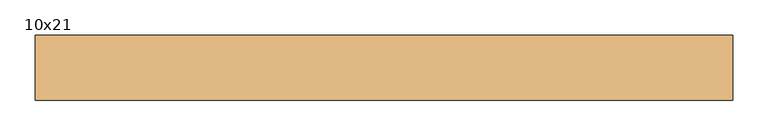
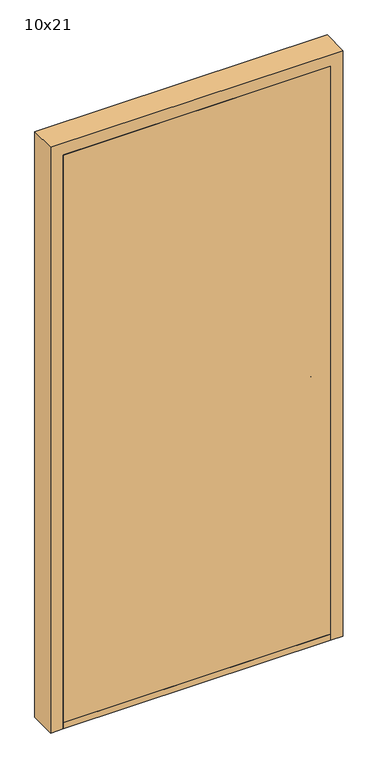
"""IFC4 building model written with IfcOpenShell, lengths in millimetres: door geometry, Innerdør Slett (Diplomat) : 10x21."""

from ifc_helpers import new_model, si_unit, point, frame, frame_2d, origin, origin_with_axes, place, context, project, spatial, polyline, circle_curve, trimmed, segment, composite_curve, outline, extrude, source, transform, mapped, element, save
from ifc_brep_helpers import plane_surface, cylinder_surface, revolved_surface, advanced_brep


def door_10x21_7303f475(model_context):
    return source(origin(), model_context, "Body", "SolidModel", [
        advanced_brep(
        [(393.9611305, -20.0, 949.1175955), (388.8520664, -20.0, 949.9496913), (326.0476109, -20.0, 943.6260011), (296.721536, -20.0, 938.7393398), (291.8691983, -20.0, 951.8913379), (295.505009, -20.0, 959.9624074), (300.3175669, -20.0, 964.8810513), (318.8963175, -20.0, 967.2639242), (363.6202158, -20.0, 964.1804415), (368.6891233, -20.0, 964.26032), (417.2687793, -20.0, 969.1517356), (446.379633, -20.0, 951.3474568), (408.3841161, -20.0, 942.6204086), (368.6891233, -27.1084716, 964.26032), (363.6202158, -27.1084716, 964.1804415), (318.8963175, -27.1084716, 967.2639242), (300.3175669, -27.1084716, 964.8810513), (295.505009, -27.1084716, 959.9624074), (291.8691983, -27.1084716, 951.8913379), (296.721536, -27.1084716, 938.7393398), (326.0476109, -27.1084716, 943.6260011), (388.8520664, -27.1084716, 949.9496913), (393.9611305, -27.1084716, 949.1175955), (408.3841161, -27.1084716, 942.6204086), (406.379633, -27.1084716, 951.3474568), (417.2687793, -27.1084716, 969.1517356), (446.379633, -55.0, 951.3474568), (406.379633, -55.0, 951.3474568)],
        [
            (0, 1, circle_curve(frame((389.8538865, -20.0, 940.0), z_axis=(0.0, -1.0, 0.0), x_axis=(-0.9949691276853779, 0.0, -0.10018200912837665)), 10.0)),
            (1, 2),
            (2, 3, circle_curve(frame((307.8569644, -20.0, 962.352734), z_axis=(0.0, 1.0, 0.0), x_axis=(-0.9949691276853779, 0.0, -0.10018200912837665)), 26.1072815)),
            (3, 4, circle_curve(frame((300.9867937, -20.0, 947.7840939), z_axis=(0.0, 1.0, 0.0), x_axis=(-0.9949691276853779, 0.0, -0.10018200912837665)), 10.0)),
            (4, 5),
            (5, 6, circle_curve(frame((304.6226045, -20.0, 955.8551634), z_axis=(0.0, 1.0, 0.0), x_axis=(-0.9949691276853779, 0.0, -0.10018200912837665)), 10.0)),
            (6, 7, circle_curve(frame((313.2326797, -20.0, 937.8033877), z_axis=(0.0, 1.0, 0.0), x_axis=(-0.9949691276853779, 0.0, -0.10018200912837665)), 30.0)),
            (7, 8),
            (8, 9, circle_curve(frame((365.683663, -20.0, 994.1093938), z_axis=(0.0, -1.0, 0.0), x_axis=(-0.9949691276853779, 0.0, -0.10018200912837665)), 30.0)),
            (9, 10),
            (10, 11, circle_curve(frame((426.379633, -20.0, 951.3474568), z_axis=(0.0, 1.0, 0.0), x_axis=(-1.0, 0.0, 0.0)), 20.0)),
            (11, 12, circle_curve(frame((426.379633, -20.0, 951.3474568), z_axis=(0.0, 1.0, 0.0), x_axis=(-1.0, 0.0, 0.0)), 20.0)),
            (12, 0),
            (13, 14, circle_curve(frame((365.683663, -27.1084716, 994.1093938), z_axis=(0.0, 1.0, 0.0), x_axis=(-0.9949691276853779, 0.0, -0.10018200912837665)), 30.0)),
            (14, 15),
            (15, 16, circle_curve(frame((313.2326797, -27.1084716, 937.8033877), z_axis=(0.0, -1.0, 0.0), x_axis=(-0.9949691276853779, 0.0, -0.10018200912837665)), 30.0)),
            (16, 17, circle_curve(frame((304.6226045, -27.1084716, 955.8551634), z_axis=(0.0, -1.0, 0.0), x_axis=(-0.9949691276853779, 0.0, -0.10018200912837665)), 10.0)),
            (17, 18),
            (18, 19, circle_curve(frame((300.9867937, -27.1084716, 947.7840939), z_axis=(0.0, -1.0, 0.0), x_axis=(-0.9949691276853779, 0.0, -0.10018200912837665)), 10.0)),
            (19, 20, circle_curve(frame((307.8569644, -27.1084716, 962.352734), z_axis=(0.0, -1.0, 0.0), x_axis=(-0.9949691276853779, 0.0, -0.10018200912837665)), 26.1072815)),
            (20, 21),
            (21, 22, circle_curve(frame((389.8538865, -27.1084716, 940.0), z_axis=(0.0, 1.0, 0.0), x_axis=(-0.9949691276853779, 0.0, -0.10018200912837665)), 10.0)),
            (22, 23),
            (23, 24, circle_curve(frame((426.379633, -27.1084716, 951.3474568), z_axis=(0.0, 1.0, 0.0), x_axis=(-1.0, 0.0, 0.0)), 20.0)),
            (24, 25, circle_curve(frame((426.379633, -27.1084716, 951.3474568), z_axis=(0.0, 1.0, 0.0), x_axis=(-1.0, 0.0, 0.0)), 20.0)),
            (25, 13),
            (9, 13),
            (25, 10),
            (22, 0),
            (12, 23),
            (21, 1),
            (20, 2),
            (19, 3),
            (18, 4),
            (17, 5),
            (16, 6),
            (15, 7),
            (14, 8),
            (26, 27, circle_curve(frame((426.379633, -55.0, 951.3474568), z_axis=(0.0, -1.0, 0.0), x_axis=(-1.0, 0.0, 0.0)), 20.0)),
            (27, 26, circle_curve(frame((426.379633, -55.0, 951.3474568), z_axis=(0.0, -1.0, 0.0), x_axis=(-1.0, 0.0, 0.0)), 20.0)),
            (27, 24),
            (11, 26),
        ],
        [
            plane_surface(frame((417.6960588, -20.0, 969.1947577), z_axis=(0.0, 1.0000000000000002, 0.0), x_axis=(0.9949691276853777, 0.0, 0.10018200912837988))),
            plane_surface(frame((417.6960588, -27.1084716, 969.1947577), z_axis=(0.0, -1.0000000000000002, 0.0), x_axis=(-0.9949691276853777, 0.0, -0.10018200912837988))),
            plane_surface(frame((368.6891233, -20.0, 964.26032), z_axis=(-0.10018200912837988, 0.0, 0.9949691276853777), x_axis=(0.0, -1.0, 0.0))),
            plane_surface(frame((426.9687366, -20.0, 934.2485115), z_axis=(-0.41072439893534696, 0.0, -0.91175954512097), x_axis=(0.0, -1.0, 0.0))),
            revolved_surface(polyline([(379.9041952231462, -27.1084716, 938.9981799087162), (379.9041952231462, -20.0, 938.9981799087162)]), (389.8538865, -27.1084716, 940.0), (0.0, -1.0, 0.0)),
            plane_surface(frame((388.8520664, -20.0, 949.9496913), z_axis=(0.10018200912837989, 0.0, -0.9949691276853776), x_axis=(0.0, -1.0, 0.0))),
            cylinder_surface(frame((307.8569644, -27.1084716, 962.352734), z_axis=(0.0, 1.0, 0.0), x_axis=(-0.9949691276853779, 0.0, -0.10018200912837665)), 26.1072815),
            cylinder_surface(frame((300.9867937, -27.1084716, 947.7840939), z_axis=(0.0, 1.0, 0.0), x_axis=(-0.9949691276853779, 0.0, -0.10018200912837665)), 10.0),
            plane_surface(frame((291.8691983, -20.0, 951.8913379), z_axis=(-0.9117595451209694, 0.0, 0.41072439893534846), x_axis=(0.0, -1.0, 0.0))),
            cylinder_surface(frame((304.6226045, -27.1084716, 955.8551634), z_axis=(0.0, 1.0, 0.0), x_axis=(-0.9949691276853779, 0.0, -0.10018200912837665)), 10.0),
            cylinder_surface(frame((313.2326797, -27.1084716, 937.8033877), z_axis=(0.0, 1.0, 0.0), x_axis=(-0.9949691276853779, 0.0, -0.10018200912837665)), 30.0),
            plane_surface(frame((318.8963175, -20.0, 967.2639242), z_axis=(0.06878157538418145, 0.0, 0.9976317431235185), x_axis=(0.0, -1.0, 0.0))),
            revolved_surface(polyline([(335.8345891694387, -27.1084716, 991.1039335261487), (335.8345891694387, -20.0, 991.1039335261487)]), (365.683663, -27.1084716, 994.1093938), (0.0, -1.0, 0.0)),
            plane_surface(frame((406.379633, -55.0, 951.3474568), z_axis=(0.0, -1.0, 0.0), x_axis=(0.0, 0.0, -1.0))),
            cylinder_surface(frame((426.379633, -55.0, 951.3474568), z_axis=(0.0, 1.0, 0.0), x_axis=(-1.0, 0.0, 0.0)), 20.0),
        ],
        [
            (0, [[1, 2, 3, 4, 5, 6, 7, 8, 9, 10, 11, 12, 13]]),
            (1, [[14, 15, 16, 17, 18, 19, 20, 21, 22, 23, 24, 25, 26]]),
            (2, [[27, -26, 28, -10]]),
            (3, [[29, -13, 30, -23]]),
            (4, [[-1, -29, -22, 31]]),
            (5, [[-2, -31, -21, 32]]),
            (6, [[-3, -32, -20, 33]]),
            (7, [[-4, -33, -19, 34]]),
            (8, [[-5, -34, -18, 35]]),
            (9, [[-6, -35, -17, 36]]),
            (10, [[-7, -36, -16, 37]]),
            (11, [[-8, -37, -15, 38]]),
            (12, [[-9, -38, -14, -27]]),
            (13, [[39, 40]]),
            (14, [[-40, 41, -24, -30, -12, 42]]),
            (14, [[-39, -42, -11, -28, -25, -41]]),
        ],
    ),
        extrude(outline(composite_curve([segment(trimmed(circle_curve(frame_2d((866.3474568, 426.379633)), 20.0), [point((866.3474568, 446.379633))], [point((866.3474568, 406.379633))], False, "CARTESIAN"), True, "CONTINUOUS"), segment(trimmed(circle_curve(frame_2d((866.3474568, 426.379633)), 20.0), [point((866.3474568, 406.379633))], [point((866.3474568, 446.379633))], False, "CARTESIAN"), True, "CONTINUOUS")], self_intersect=False)), frame((0.0, -55.0, 0.0), z_axis=(0.0, 1.0, 0.0), x_axis=(0.0, 0.0, 1.0)), (0.0, 0.0, 1.0), 5.0),
        advanced_brep(
        [(393.9611305, -100.0, 949.1175955), (408.3841161, -100.0, 942.6204086), (446.379633, -100.0, 951.3474568), (417.2687793, -100.0, 969.1517356), (368.6891233, -100.0, 964.26032), (363.6202158, -100.0, 964.1804415), (318.8963175, -100.0, 967.2639242), (300.3175669, -100.0, 964.8810513), (295.505009, -100.0, 959.9624074), (291.8691983, -100.0, 951.8913379), (296.721536, -100.0, 938.7393398), (326.0476109, -100.0, 943.6260011), (388.8520664, -100.0, 949.9496913), (368.6891233, -92.8915284, 964.26032), (417.2687793, -92.8915284, 969.1517356), (406.379633, -92.8915284, 951.3474568), (408.3841161, -92.8915284, 942.6204086), (393.9611305, -92.8915284, 949.1175955), (388.8520664, -92.8915284, 949.9496913), (326.0476109, -92.8915284, 943.6260011), (296.721536, -92.8915284, 938.7393398), (291.8691983, -92.8915284, 951.8913379), (295.505009, -92.8915284, 959.9624074), (300.3175669, -92.8915284, 964.8810513), (318.8963175, -92.8915284, 967.2639242), (363.6202158, -92.8915284, 964.1804415), (446.379633, -65.0, 951.3474568), (406.379633, -65.0, 951.3474568)],
        [
            (0, 1),
            (1, 2, circle_curve(frame((426.379633, -100.0, 951.3474568), z_axis=(0.0, -1.0, 0.0), x_axis=(-1.0, 0.0, 0.0)), 20.0)),
            (2, 3, circle_curve(frame((426.379633, -100.0, 951.3474568), z_axis=(0.0, -1.0, 0.0), x_axis=(-1.0, 0.0, 0.0)), 20.0)),
            (3, 4),
            (4, 5, circle_curve(frame((365.683663, -100.0, 994.1093938), z_axis=(0.0, 1.0, 0.0), x_axis=(-0.9949691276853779, 0.0, -0.10018200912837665)), 30.0)),
            (5, 6),
            (6, 7, circle_curve(frame((313.2326797, -100.0, 937.8033877), z_axis=(0.0, -1.0, 0.0), x_axis=(-0.9949691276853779, 0.0, -0.10018200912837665)), 30.0)),
            (7, 8, circle_curve(frame((304.6226045, -100.0, 955.8551634), z_axis=(0.0, -1.0, 0.0), x_axis=(-0.9949691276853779, 0.0, -0.10018200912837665)), 10.0)),
            (8, 9),
            (9, 10, circle_curve(frame((300.9867937, -100.0, 947.7840939), z_axis=(0.0, -1.0, 0.0), x_axis=(-0.9949691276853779, 0.0, -0.10018200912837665)), 10.0)),
            (10, 11, circle_curve(frame((307.8569644, -100.0, 962.352734), z_axis=(0.0, -1.0, 0.0), x_axis=(-0.9949691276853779, 0.0, -0.10018200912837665)), 26.1072815)),
            (11, 12),
            (12, 0, circle_curve(frame((389.8538865, -100.0, 940.0), z_axis=(0.0, 1.0, 0.0), x_axis=(-0.9949691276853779, 0.0, -0.10018200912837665)), 10.0)),
            (13, 14),
            (14, 15, circle_curve(frame((426.379633, -92.8915284, 951.3474568), z_axis=(0.0, -1.0, 0.0), x_axis=(-1.0, 0.0, 0.0)), 20.0)),
            (15, 16, circle_curve(frame((426.379633, -92.8915284, 951.3474568), z_axis=(0.0, -1.0, 0.0), x_axis=(-1.0, 0.0, 0.0)), 20.0)),
            (16, 17),
            (17, 18, circle_curve(frame((389.8538865, -92.8915284, 940.0), z_axis=(0.0, -1.0, 0.0), x_axis=(-0.9949691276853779, 0.0, -0.10018200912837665)), 10.0)),
            (18, 19),
            (19, 20, circle_curve(frame((307.8569644, -92.8915284, 962.352734), z_axis=(0.0, 1.0, 0.0), x_axis=(-0.9949691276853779, 0.0, -0.10018200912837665)), 26.1072815)),
            (20, 21, circle_curve(frame((300.9867937, -92.8915284, 947.7840939), z_axis=(0.0, 1.0, 0.0), x_axis=(-0.9949691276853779, 0.0, -0.10018200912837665)), 10.0)),
            (21, 22),
            (22, 23, circle_curve(frame((304.6226045, -92.8915284, 955.8551634), z_axis=(0.0, 1.0, 0.0), x_axis=(-0.9949691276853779, 0.0, -0.10018200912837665)), 10.0)),
            (23, 24, circle_curve(frame((313.2326797, -92.8915284, 937.8033877), z_axis=(0.0, 1.0, 0.0), x_axis=(-0.9949691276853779, 0.0, -0.10018200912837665)), 30.0)),
            (24, 25),
            (25, 13, circle_curve(frame((365.683663, -92.8915284, 994.1093938), z_axis=(0.0, -1.0, 0.0), x_axis=(-0.9949691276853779, 0.0, -0.10018200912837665)), 30.0)),
            (3, 14),
            (13, 4),
            (16, 1),
            (0, 17),
            (12, 18),
            (11, 19),
            (10, 20),
            (9, 21),
            (8, 22),
            (7, 23),
            (6, 24),
            (5, 25),
            (26, 27, circle_curve(frame((426.379633, -65.0, 951.3474568), z_axis=(0.0, 1.0, 0.0), x_axis=(-1.0, 0.0, 0.0)), 20.0)),
            (27, 26, circle_curve(frame((426.379633, -65.0, 951.3474568), z_axis=(0.0, 1.0, 0.0), x_axis=(-1.0, 0.0, 0.0)), 20.0)),
            (26, 2),
            (15, 27),
        ],
        [
            plane_surface(frame((417.6960588, -100.0, 969.1947577), z_axis=(0.0, -1.0000000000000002, 0.0), x_axis=(0.9949691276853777, 0.0, 0.10018200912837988))),
            plane_surface(frame((417.6960588, -92.8915284, 969.1947577), z_axis=(0.0, 1.0000000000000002, 0.0), x_axis=(-0.9949691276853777, 0.0, -0.10018200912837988))),
            plane_surface(frame((368.6891233, -100.0, 964.26032), z_axis=(-0.10018200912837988, 0.0, 0.9949691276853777), x_axis=(0.0, 1.0, 0.0))),
            plane_surface(frame((426.9687366, -100.0, 934.2485115), z_axis=(-0.41072439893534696, 0.0, -0.91175954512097), x_axis=(0.0, 1.0, 0.0))),
            revolved_surface(polyline([(379.9041952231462, -92.8915284, 938.9981799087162), (379.9041952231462, -100.0, 938.9981799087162)]), (389.8538865, -92.8915284, 940.0), (0.0, 1.0, 0.0)),
            plane_surface(frame((388.8520664, -100.0, 949.9496913), z_axis=(0.10018200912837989, 0.0, -0.9949691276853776), x_axis=(0.0, 1.0, 0.0))),
            cylinder_surface(frame((307.8569644, -92.8915284, 962.352734), z_axis=(0.0, -1.0, 0.0), x_axis=(-0.9949691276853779, 0.0, -0.10018200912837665)), 26.1072815),
            cylinder_surface(frame((300.9867937, -92.8915284, 947.7840939), z_axis=(0.0, -1.0, 0.0), x_axis=(-0.9949691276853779, 0.0, -0.10018200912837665)), 10.0),
            plane_surface(frame((291.8691983, -100.0, 951.8913379), z_axis=(-0.9117595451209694, 0.0, 0.41072439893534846), x_axis=(0.0, 1.0, 0.0))),
            cylinder_surface(frame((304.6226045, -92.8915284, 955.8551634), z_axis=(0.0, -1.0, 0.0), x_axis=(-0.9949691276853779, 0.0, -0.10018200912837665)), 10.0),
            cylinder_surface(frame((313.2326797, -92.8915284, 937.8033877), z_axis=(0.0, -1.0, 0.0), x_axis=(-0.9949691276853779, 0.0, -0.10018200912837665)), 30.0),
            plane_surface(frame((318.8963175, -100.0, 967.2639242), z_axis=(0.06878157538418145, 0.0, 0.9976317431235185), x_axis=(0.0, 1.0, 0.0))),
            revolved_surface(polyline([(335.8345891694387, -92.8915284, 991.1039335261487), (335.8345891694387, -100.0, 991.1039335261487)]), (365.683663, -92.8915284, 994.1093938), (0.0, 1.0, 0.0)),
            plane_surface(frame((406.379633, -65.0, 951.3474568), z_axis=(0.0, 1.0, 0.0), x_axis=(0.0, 0.0, -1.0))),
            cylinder_surface(frame((426.379633, -65.0, 951.3474568), z_axis=(0.0, -1.0, 0.0), x_axis=(-1.0, 0.0, 0.0)), 20.0),
        ],
        [
            (0, [[1, 2, 3, 4, 5, 6, 7, 8, 9, 10, 11, 12, 13]]),
            (1, [[14, 15, 16, 17, 18, 19, 20, 21, 22, 23, 24, 25, 26]]),
            (2, [[-4, 27, -14, 28]]),
            (3, [[-17, 29, -1, 30]]),
            (4, [[31, -18, -30, -13]]),
            (5, [[32, -19, -31, -12]]),
            (6, [[33, -20, -32, -11]]),
            (7, [[34, -21, -33, -10]]),
            (8, [[35, -22, -34, -9]]),
            (9, [[36, -23, -35, -8]]),
            (10, [[37, -24, -36, -7]]),
            (11, [[38, -25, -37, -6]]),
            (12, [[-28, -26, -38, -5]]),
            (13, [[39, 40]]),
            (14, [[41, -2, -29, -16, 42, -39]]),
            (14, [[-42, -15, -27, -3, -41, -40]]),
        ],
    ),
        extrude(outline(composite_curve([segment(trimmed(circle_curve(frame_2d((866.3474568, 426.379633)), 20.0), [point((866.3474568, 446.379633))], [point((866.3474568, 406.379633))], False, "CARTESIAN"), True, "CONTINUOUS"), segment(trimmed(circle_curve(frame_2d((866.3474568, 426.379633)), 20.0), [point((866.3474568, 406.379633))], [point((866.3474568, 446.379633))], False, "CARTESIAN"), True, "CONTINUOUS")], self_intersect=False)), frame((0.0, -70.0, 0.0), z_axis=(0.0, 1.0, 0.0), x_axis=(0.0, 0.0, 1.0)), (0.0, 0.0, 1.0), 5.0),
        extrude(outline(polyline([(506.379633, -13.0), (506.379633, -105.0), (-399.620367, -105.0), (-399.620367, -13.0), (506.379633, -13.0)])), origin_with_axes(), (0.0, 0.0, 1.0), 22.0),
        extrude(outline(polyline([(506.379633, -55.0), (506.379633, -105.0), (-399.620367, -105.0), (-399.620367, -55.0), (506.379633, -55.0)])), frame((0.0, 0.0, 22.0), z_axis=(0.0, 0.0, 1.0), x_axis=(1.0, 0.0, 0.0)), (0.0, 0.0, 1.0), 2031.0),
        extrude(outline(polyline([(0.0, -399.620367), (2053.0, -399.620367), (2053.0, 506.379633), (0.0, 506.379633), (0.0, 548.379633), (2095.0, 548.379633), (2095.0, -441.620367), (0.0, -441.620367), (0.0, -399.620367)])), frame((0.0, -105.0, 0.0), z_axis=(0.0, 1.0, 0.0), x_axis=(0.0, 0.0, 1.0)), (0.0, 0.0, 1.0), 92.0),
    ])


if __name__ == "__main__":
    model = new_model("IFC4")
    model_context = context("Model", 3, world=origin())
    ifc_project = project(units=[si_unit("LENGTHUNIT", "METRE", prefix="MILLI")], contexts=[model_context])
    site = spatial("IfcSite", under=ifc_project)
    building = spatial("IfcBuilding", under=site)
    placement = place(None, origin())
    door_10x21_shape = door_10x21_7303f475(model_context)
    element("IfcDoor", 1, ObjectType="Innerdør Slett (Diplomat) : 10x21", at=placement, inside=building, context=model_context, shape_type="MappedRepresentation", body=[
        mapped(door_10x21_shape, transform((0.0, 0.0, 0.0), x_axis=(1.0, 0.0, 0.0), y_axis=(0.0, 1.0, 0.0), z_axis=(0.0, 0.0, 1.0))),
    ])
    save(model, "model.ifc")
